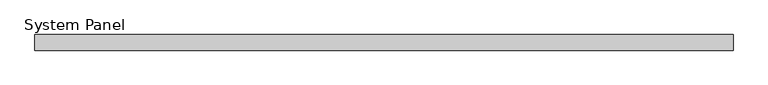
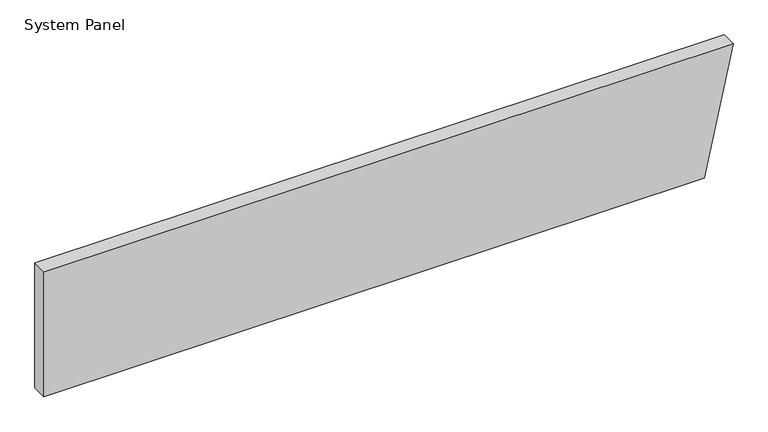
"""IFC4 building model written with IfcOpenShell, lengths in millimetres: plate geometry, System Panel : InsulWall_140mm_Plain_Surfmist."""

from ifc_helpers import new_model, si_unit, frame, origin, place, context, project, spatial, polyline, outline, extrude, source, transform, mapped, element, save


def system_panel_2f336ff5(model_context):
    return source(origin(), model_context, "Body", "SweptSolid", [
        extrude(outline(polyline([(0.0, -3125.4358309), (0.0, 2864.5641691), (1200.0, 3125.4358309), (1200.0, -3125.4358309), (0.0, -3125.4358309)])), frame((0.0, -140.0, 0.0), z_axis=(0.0, 1.0, 0.0), x_axis=(0.0, 0.0, 1.0)), (0.0, 0.0, 1.0), 140.0),
    ])


if __name__ == "__main__":
    model = new_model("IFC4")
    model_context = context("Model", 3, world=origin())
    ifc_project = project(units=[si_unit("LENGTHUNIT", "METRE", prefix="MILLI")], contexts=[model_context])
    site = spatial("IfcSite", under=ifc_project)
    building = spatial("IfcBuilding", under=site)
    placement = place(None, origin())
    system_panel_shape = system_panel_2f336ff5(model_context)
    element("IfcPlate", 1, ObjectType="System Panel : InsulWall_140mm_Plain_Surfmist", at=placement, inside=building, context=model_context, shape_type="MappedRepresentation", body=[
        mapped(system_panel_shape, transform((0.0, 0.0, 0.0), x_axis=(1.0, 0.0, 0.0), y_axis=(0.0, 1.0, 0.0), z_axis=(0.0, 0.0, 1.0))),
    ])
    save(model, "model.ifc")
